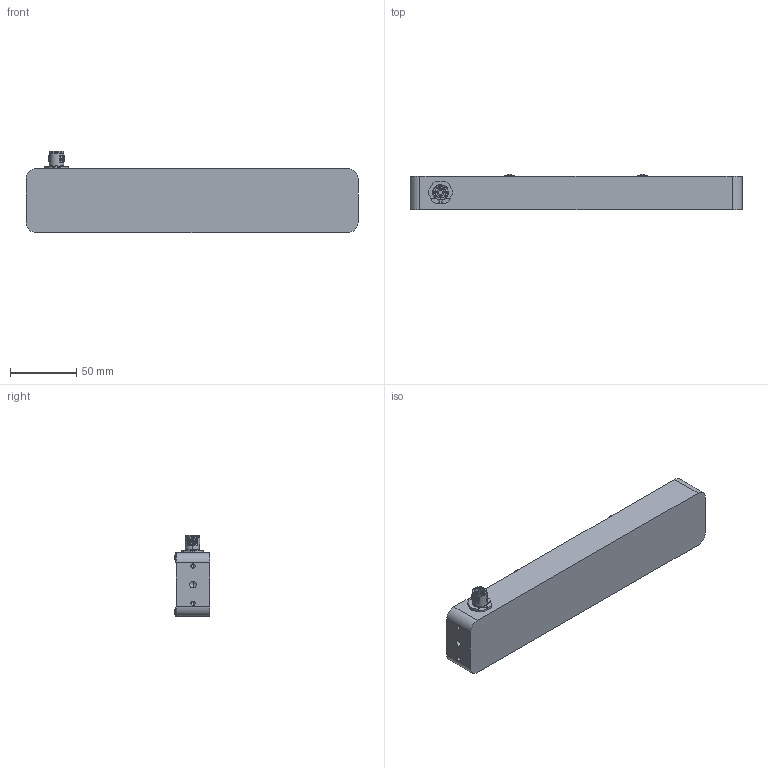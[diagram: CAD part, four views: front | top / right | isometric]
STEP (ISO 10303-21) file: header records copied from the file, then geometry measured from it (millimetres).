
FILE_DESCRIPTION (( 'STEP AP214' ), '1' );
FILE_NAME ('105815_200 (Part) (2017-01-01).STEP', '2017-01-01T19:16:06', ( '' ), ( '' ), 'SwSTEP 2.0', 'SolidWorks 2016', '' );
FILE_SCHEMA (( 'AUTOMOTIVE_DESIGN' ));
Length unit declared in the file: millimetre
Products named in the file (1): 105815_200 (Part) (2017-01-01)
Bounding box: 250 x 26.65 x 61 mm (x, y, z)
Volume: 189485.2 mm3; surface area: 67160.3 mm2
Topology: 1 solids, 6 shells, 625 faces, 1654 edges, 1009 vertices
Faces by surface type: plane 281, cylinder 179, bspline 66, cone 61, sphere 24, torus 14
Entity records: 30429 total; most frequent: CARTESIAN_POINT 8859, ORIENTED_EDGE 3170, DIRECTION 2882, EDGE_CURVE 1585, VERTEX_POINT 1001, AXIS2_PLACEMENT_3D 985, LINE 912, VECTOR 912
